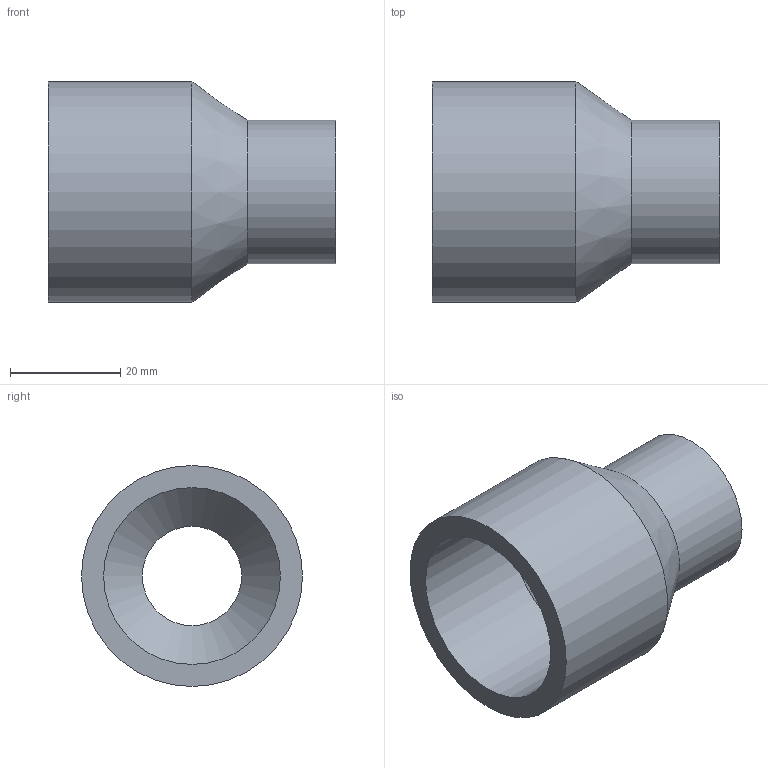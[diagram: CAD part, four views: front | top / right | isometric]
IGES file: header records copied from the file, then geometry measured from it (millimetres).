
Global section: file name: 050200040020.ipt; native system: Autodesk Inventor 2015; preprocessor: unknown; author: KIM; date: 20171207.164147; units: millimetre
Bounding box: 52 x 40 x 40 mm (x, y, z)
Volume: 21821.5 mm3; surface area: 10958.8 mm2
Topology: 1 solids, 1 shells, 10 faces, 23 edges, 16 vertices
Faces by surface type: revolution 4, plane 3, cylinder 2, cone 1
Full cylindrical faces by diameter (mm): 26 x1, 40 x1
